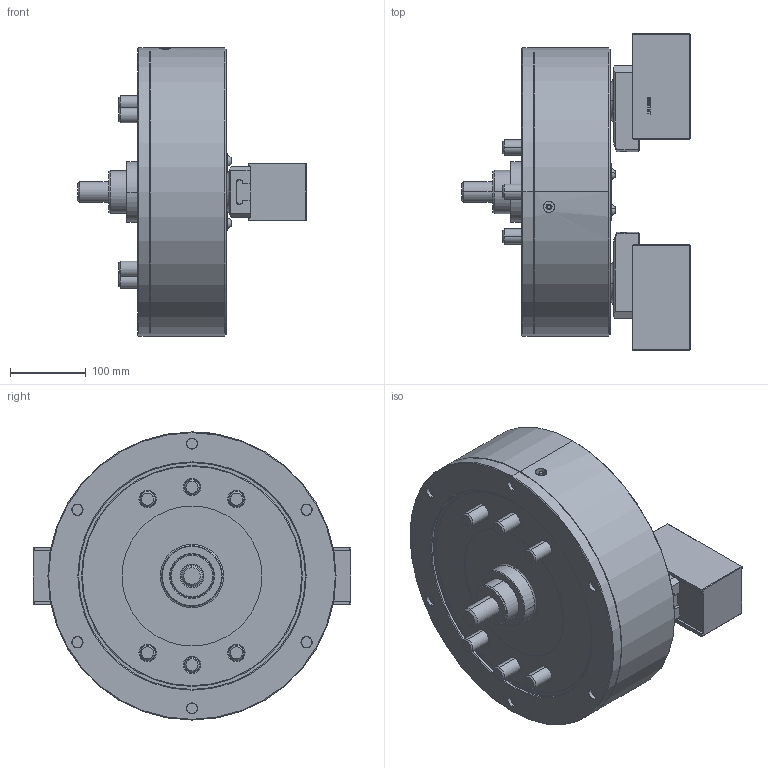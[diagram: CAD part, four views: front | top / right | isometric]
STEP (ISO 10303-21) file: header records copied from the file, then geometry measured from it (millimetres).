
FILE_DESCRIPTION (( 'STEP AP214' ), '1' );
FILE_NAME ('PWT15_CL_ID.STEP', '2019-10-23T01:28:13', ( '' ), ( '' ), 'SwSTEP 2.0', 'SolidWorks 2017', '' );
FILE_SCHEMA (( 'AUTOMOTIVE_DESIGN' ));
Length unit declared in the file: millimetre
Products named in the file (5): 結合_ID; 0030120030; 61P422878; 61P334597; PWT15_CL_ID
Assembly tree (9 placements, depth 2):
  PWT15_CL_ID
    61P334597  x2
    61P422878  x2
    0030120030  x4
    結合_ID
Bounding box: 302 x 419.7 x 381 mm (x, y, z)
Volume: 14914706.4 mm3; surface area: 763228.6 mm2
Topology: 9 solids, 10 shells, 1641 faces, 4021 edges, 2520 vertices
Faces by surface type: plane 873, cone 269, cylinder 234, bspline 209, torus 52, sphere 4
Entity records: 47034 total; most frequent: CARTESIAN_POINT 15626, ORIENTED_EDGE 6686, DIRECTION 5962, EDGE_CURVE 3343, VERTEX_POINT 2107, AXIS2_PLACEMENT_3D 1991, LINE 1980, VECTOR 1980
